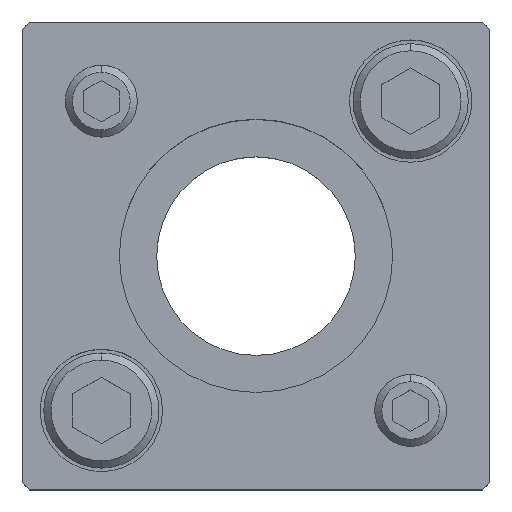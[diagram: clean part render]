
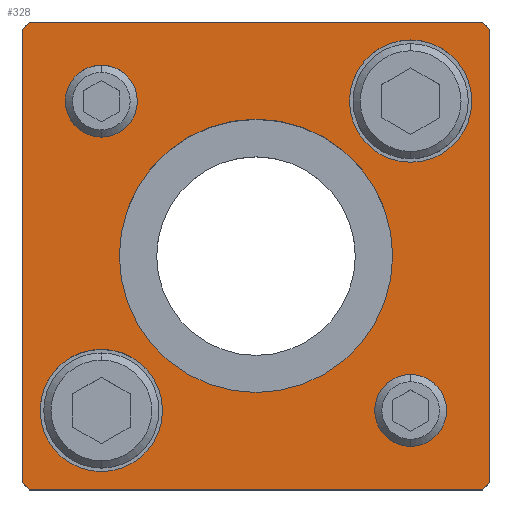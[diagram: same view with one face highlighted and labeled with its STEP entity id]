
A CAD part, top view. The second image highlights one B-rep face of the part: STEP entity #328.
In plain terms, the highlighted planar face has unit normal (0, 0, 1).
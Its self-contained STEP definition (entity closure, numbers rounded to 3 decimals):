
#119=PLANE('',#2702);
#192=FACE_BOUND('',#649,.T.);
#193=FACE_BOUND('',#650,.T.);
#194=FACE_BOUND('',#651,.T.);
#195=FACE_BOUND('',#652,.T.);
#196=FACE_BOUND('',#653,.T.);
#197=FACE_BOUND('',#654,.T.);
#328=ADVANCED_FACE('',(#192,#193,#194,#195,#196,#197),#119,.T.);
#649=EDGE_LOOP('',(#1071,#1072,#1073,#1074,#1075,#1076,#1077,#1078));
#650=EDGE_LOOP('',(#1079,#1080));
#651=EDGE_LOOP('',(#1081,#1082));
#652=EDGE_LOOP('',(#1083,#1084));
#653=EDGE_LOOP('',(#1085,#1086));
#654=EDGE_LOOP('',(#1087,#1088));
#833=CIRCLE('',#2678,5.);
#835=CIRCLE('',#2681,5.);
#837=CIRCLE('',#2684,5.);
#839=CIRCLE('',#2687,5.);
#845=CIRCLE('',#2696,8.5);
#846=CIRCLE('',#2697,8.5);
#847=CIRCLE('',#2698,8.5);
#848=CIRCLE('',#2699,8.5);
#849=CIRCLE('',#2700,19.);
#850=CIRCLE('',#2701,19.);
#1071=ORIENTED_EDGE('',*,*,#1923,.T.);
#1072=ORIENTED_EDGE('',*,*,#1924,.T.);
#1073=ORIENTED_EDGE('',*,*,#1925,.T.);
#1074=ORIENTED_EDGE('',*,*,#1926,.T.);
#1075=ORIENTED_EDGE('',*,*,#1927,.T.);
#1076=ORIENTED_EDGE('',*,*,#1928,.T.);
#1077=ORIENTED_EDGE('',*,*,#1929,.T.);
#1078=ORIENTED_EDGE('',*,*,#1930,.T.);
#1079=ORIENTED_EDGE('',*,*,#1931,.F.);
#1080=ORIENTED_EDGE('',*,*,#1932,.F.);
#1081=ORIENTED_EDGE('',*,*,#1933,.F.);
#1082=ORIENTED_EDGE('',*,*,#1934,.F.);
#1083=ORIENTED_EDGE('',*,*,#1915,.F.);
#1084=ORIENTED_EDGE('',*,*,#1911,.F.);
#1085=ORIENTED_EDGE('',*,*,#1909,.F.);
#1086=ORIENTED_EDGE('',*,*,#1905,.F.);
#1087=ORIENTED_EDGE('',*,*,#1935,.T.);
#1088=ORIENTED_EDGE('',*,*,#1936,.T.);
#1659=VERTEX_POINT('',#3859);
#1660=VERTEX_POINT('',#3860);
#1663=VERTEX_POINT('',#3871);
#1664=VERTEX_POINT('',#3872);
#1671=VERTEX_POINT('',#3895);
#1672=VERTEX_POINT('',#3896);
#1673=VERTEX_POINT('',#3898);
#1674=VERTEX_POINT('',#3900);
#1675=VERTEX_POINT('',#3902);
#1676=VERTEX_POINT('',#3904);
#1677=VERTEX_POINT('',#3906);
#1678=VERTEX_POINT('',#3908);
#1679=VERTEX_POINT('',#3911);
#1680=VERTEX_POINT('',#3912);
#1681=VERTEX_POINT('',#3915);
#1682=VERTEX_POINT('',#3916);
#1683=VERTEX_POINT('',#3919);
#1684=VERTEX_POINT('',#3920);
#1905=EDGE_CURVE('',#1659,#1660,#833,.T.);
#1909=EDGE_CURVE('',#1660,#1659,#835,.T.);
#1911=EDGE_CURVE('',#1663,#1664,#837,.T.);
#1915=EDGE_CURVE('',#1664,#1663,#839,.T.);
#1923=EDGE_CURVE('',#1671,#1672,#2217,.T.);
#1924=EDGE_CURVE('',#1672,#1673,#2218,.T.);
#1925=EDGE_CURVE('',#1673,#1674,#2219,.T.);
#1926=EDGE_CURVE('',#1674,#1675,#2220,.T.);
#1927=EDGE_CURVE('',#1675,#1676,#2221,.T.);
#1928=EDGE_CURVE('',#1676,#1677,#2222,.T.);
#1929=EDGE_CURVE('',#1677,#1678,#2223,.T.);
#1930=EDGE_CURVE('',#1678,#1671,#2224,.T.);
#1931=EDGE_CURVE('',#1679,#1680,#845,.T.);
#1932=EDGE_CURVE('',#1680,#1679,#846,.T.);
#1933=EDGE_CURVE('',#1681,#1682,#847,.T.);
#1934=EDGE_CURVE('',#1682,#1681,#848,.T.);
#1935=EDGE_CURVE('',#1683,#1684,#849,.T.);
#1936=EDGE_CURVE('',#1684,#1683,#850,.T.);
#2217=LINE('',#3894,#2429);
#2218=LINE('',#3897,#2430);
#2219=LINE('',#3899,#2431);
#2220=LINE('',#3901,#2432);
#2221=LINE('',#3903,#2433);
#2222=LINE('',#3905,#2434);
#2223=LINE('',#3907,#2435);
#2224=LINE('',#3909,#2436);
#2429=VECTOR('',#3097,1.);
#2430=VECTOR('',#3098,1.);
#2431=VECTOR('',#3099,1.);
#2432=VECTOR('',#3100,1.);
#2433=VECTOR('',#3101,1.);
#2434=VECTOR('',#3102,1.);
#2435=VECTOR('',#3103,1.);
#2436=VECTOR('',#3104,1.);
#2678=AXIS2_PLACEMENT_3D('',#3858,#3055,#3056);
#2681=AXIS2_PLACEMENT_3D('',#3867,#3063,#3064);
#2684=AXIS2_PLACEMENT_3D('',#3870,#3069,#3070);
#2687=AXIS2_PLACEMENT_3D('',#3879,#3077,#3078);
#2696=AXIS2_PLACEMENT_3D('',#3910,#3105,#3106);
#2697=AXIS2_PLACEMENT_3D('',#3913,#3107,#3108);
#2698=AXIS2_PLACEMENT_3D('',#3914,#3109,#3110);
#2699=AXIS2_PLACEMENT_3D('',#3917,#3111,#3112);
#2700=AXIS2_PLACEMENT_3D('',#3918,#3113,#3114);
#2701=AXIS2_PLACEMENT_3D('',#3921,#3115,#3116);
#2702=AXIS2_PLACEMENT_3D('',#3922,#3117,#3118);
#3055=DIRECTION('',(0.,0.,1.));
#3056=DIRECTION('',(1.,0.,0.));
#3063=DIRECTION('',(0.,0.,1.));
#3064=DIRECTION('',(-1.,0.,0.));
#3069=DIRECTION('',(0.,0.,1.));
#3070=DIRECTION('',(1.,0.,0.));
#3077=DIRECTION('',(0.,0.,1.));
#3078=DIRECTION('',(-1.,0.,0.));
#3097=DIRECTION('',(1.,0.,0.));
#3098=DIRECTION('',(0.707,0.707,0.));
#3099=DIRECTION('',(0.,1.,0.));
#3100=DIRECTION('',(-0.707,0.707,0.));
#3101=DIRECTION('',(-1.,0.,0.));
#3102=DIRECTION('',(-0.707,-0.707,0.));
#3103=DIRECTION('',(0.,-1.,0.));
#3104=DIRECTION('',(0.707,-0.707,0.));
#3105=DIRECTION('',(0.,0.,1.));
#3106=DIRECTION('',(1.,0.,0.));
#3107=DIRECTION('',(0.,0.,1.));
#3108=DIRECTION('',(-1.,0.,0.));
#3109=DIRECTION('',(0.,0.,1.));
#3110=DIRECTION('',(1.,0.,0.));
#3111=DIRECTION('',(0.,0.,1.));
#3112=DIRECTION('',(-1.,0.,0.));
#3113=DIRECTION('',(0.,0.,-1.));
#3114=DIRECTION('',(-1.,0.,0.));
#3115=DIRECTION('',(0.,0.,-1.));
#3116=DIRECTION('',(1.,0.,0.));
#3117=DIRECTION('',(0.,0.,1.));
#3118=DIRECTION('',(-1.,0.,0.));
#3858=CARTESIAN_POINT('',(21.5,-21.5,35.));
#3859=CARTESIAN_POINT('',(21.5,-16.5,35.));
#3860=CARTESIAN_POINT('',(21.5,-26.5,35.));
#3867=CARTESIAN_POINT('',(21.5,-21.5,35.));
#3870=CARTESIAN_POINT('',(-21.5,21.5,35.));
#3871=CARTESIAN_POINT('',(-21.5,26.5,35.));
#3872=CARTESIAN_POINT('',(-21.5,16.5,35.));
#3879=CARTESIAN_POINT('',(-21.5,21.5,35.));
#3894=CARTESIAN_POINT('',(31.5,-32.5,35.));
#3895=CARTESIAN_POINT('',(-31.5,-32.5,35.));
#3896=CARTESIAN_POINT('',(31.5,-32.5,35.));
#3897=CARTESIAN_POINT('',(32.5,-31.5,35.));
#3898=CARTESIAN_POINT('',(32.5,-31.5,35.));
#3899=CARTESIAN_POINT('',(32.5,31.5,35.));
#3900=CARTESIAN_POINT('',(32.5,31.5,35.));
#3901=CARTESIAN_POINT('',(31.5,32.5,35.));
#3902=CARTESIAN_POINT('',(31.5,32.5,35.));
#3903=CARTESIAN_POINT('',(-31.5,32.5,35.));
#3904=CARTESIAN_POINT('',(-31.5,32.5,35.));
#3905=CARTESIAN_POINT('',(-32.5,31.5,35.));
#3906=CARTESIAN_POINT('',(-32.5,31.5,35.));
#3907=CARTESIAN_POINT('',(-32.5,-31.5,35.));
#3908=CARTESIAN_POINT('',(-32.5,-31.5,35.));
#3909=CARTESIAN_POINT('',(-31.5,-32.5,35.));
#3910=CARTESIAN_POINT('',(-21.5,-21.5,35.));
#3911=CARTESIAN_POINT('',(-21.5,-13.,35.));
#3912=CARTESIAN_POINT('',(-21.5,-30.,35.));
#3913=CARTESIAN_POINT('',(-21.5,-21.5,35.));
#3914=CARTESIAN_POINT('',(21.5,21.5,35.));
#3915=CARTESIAN_POINT('',(21.5,30.,35.));
#3916=CARTESIAN_POINT('',(21.5,13.,35.));
#3917=CARTESIAN_POINT('',(21.5,21.5,35.));
#3918=CARTESIAN_POINT('',(0.,0.,35.));
#3919=CARTESIAN_POINT('',(0.,19.,35.));
#3920=CARTESIAN_POINT('',(0.,-19.,35.));
#3921=CARTESIAN_POINT('',(0.,0.,35.));
#3922=CARTESIAN_POINT('',(-31.5,-32.5,35.));
